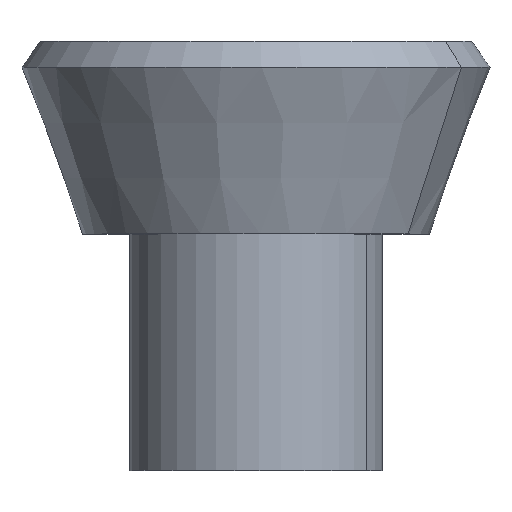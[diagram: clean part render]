
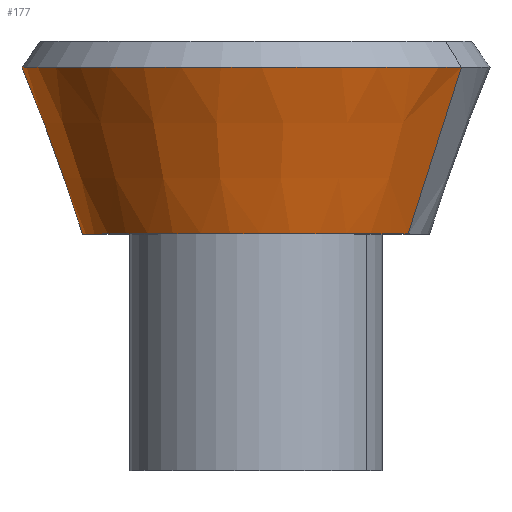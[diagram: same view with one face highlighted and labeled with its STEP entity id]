
A CAD part, top view. The second image highlights one B-rep face of the part: STEP entity #177.
In plain terms, the highlighted conical face has half-angle 20 degrees and reference radius 110 mm.
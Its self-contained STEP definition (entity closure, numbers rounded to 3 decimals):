
#114=CARTESIAN_POINT('Axis2P3D Location',(0.,0.,0.)) ;
#118=CARTESIAN_POINT('Vertex',(96.534,0.,52.737)) ;
#120=CARTESIAN_POINT('Vertex',(-96.534,0.,-52.737)) ;
#147=CARTESIAN_POINT('Axis2P3D Location',(0.,0.,0.)) ;
#152=CARTESIAN_POINT('Line Origine',(113.427,52.888,61.966)) ;
#156=CARTESIAN_POINT('Vertex',(130.321,105.777,71.195)) ;
#159=CARTESIAN_POINT('Axis2P3D Location',(0.,105.777,0.)) ;
#163=CARTESIAN_POINT('Vertex',(-130.321,105.777,-71.195)) ;
#166=CARTESIAN_POINT('Line Origine',(-113.427,52.888,-61.966)) ;
#115=DIRECTION('Axis2P3D Direction',(0.,-1.,0.)) ;
#148=DIRECTION('Axis2P3D Direction',(-0.,1.,-0.)) ;
#149=DIRECTION('Axis2P3D XDirection',(0.878,0.,0.479)) ;
#153=DIRECTION('Vector Direction',(0.3,0.94,0.164)) ;
#160=DIRECTION('Axis2P3D Direction',(0.,1.,-0.)) ;
#167=DIRECTION('Vector Direction',(-0.3,0.94,-0.164)) ;
#116=AXIS2_PLACEMENT_3D('Circle Axis2P3D',#114,#115,$) ;
#150=AXIS2_PLACEMENT_3D('Cone Axis2P3D',#147,#148,#149) ;
#161=AXIS2_PLACEMENT_3D('Circle Axis2P3D',#159,#160,$) ;
#172=ORIENTED_EDGE('',*,*,#122,.F.) ;
#173=ORIENTED_EDGE('',*,*,#158,.T.) ;
#174=ORIENTED_EDGE('',*,*,#165,.T.) ;
#175=ORIENTED_EDGE('',*,*,#170,.F.) ;
#154=VECTOR('Line Direction',#153,1.) ;
#168=VECTOR('Line Direction',#167,1.) ;
#177=ADVANCED_FACE('PartBody',(#176),#151,.T.) ;
#117=CIRCLE('generated circle',#116,110.) ;
#162=CIRCLE('generated circle',#161,148.5) ;
#151=CONICAL_SURFACE('Cone',#150,110.,0.349) ;
#122=EDGE_CURVE('',#119,#121,#117,.T.) ;
#158=EDGE_CURVE('',#119,#157,#155,.T.) ;
#165=EDGE_CURVE('',#157,#164,#162,.F.) ;
#170=EDGE_CURVE('',#121,#164,#169,.T.) ;
#171=EDGE_LOOP('',(#172,#173,#174,#175)) ;
#176=FACE_OUTER_BOUND('',#171,.T.) ;
#155=LINE('Line',#152,#154) ;
#169=LINE('Line',#166,#168) ;
#119=VERTEX_POINT('',#118) ;
#121=VERTEX_POINT('',#120) ;
#157=VERTEX_POINT('',#156) ;
#164=VERTEX_POINT('',#163) ;
